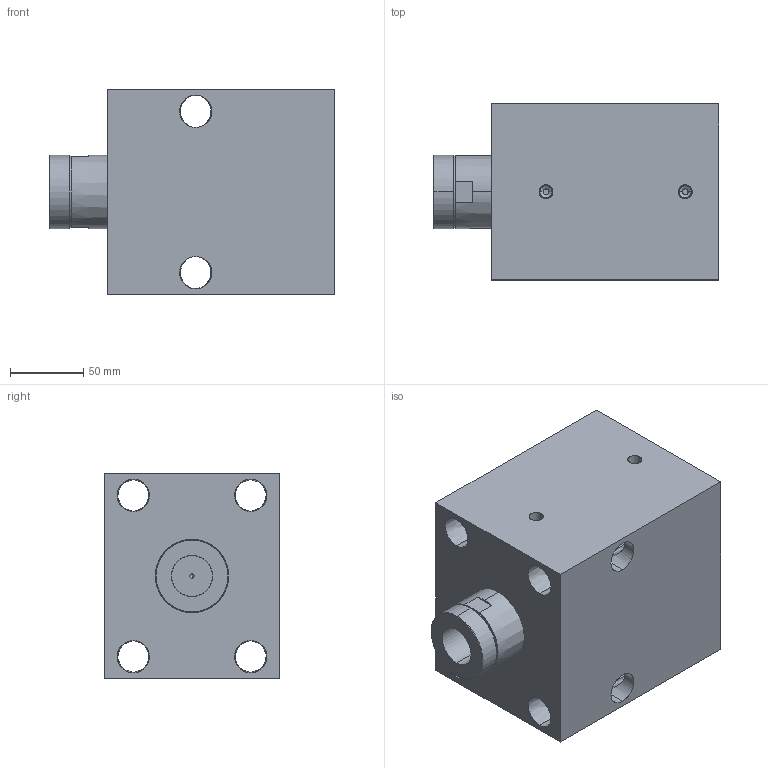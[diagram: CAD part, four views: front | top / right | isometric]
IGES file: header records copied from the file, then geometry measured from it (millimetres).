
Start section: SolidWorks IGES file using analytic representation for surfaces
Global section: file name: C:\Documents and Settings\rajib\Desktop\Rajib\BLOCK CYLINDER HYDRAULIC\0801-0806\IGES 0801-0808\0802.IGS; native system: SolidWorks 2007; preprocessor: SolidWorks 2007; author: rajib; date: 110121.164023; units: millimetre
Bounding box: 195 x 120 x 140 mm (x, y, z)
Surface area: 190745.1 mm2 (no closed solid volume)
Topology: 0 solids, 0 shells, 80 faces, 2016 edges, 2014 vertices
Faces by surface type: revolution 58, bspline 22
